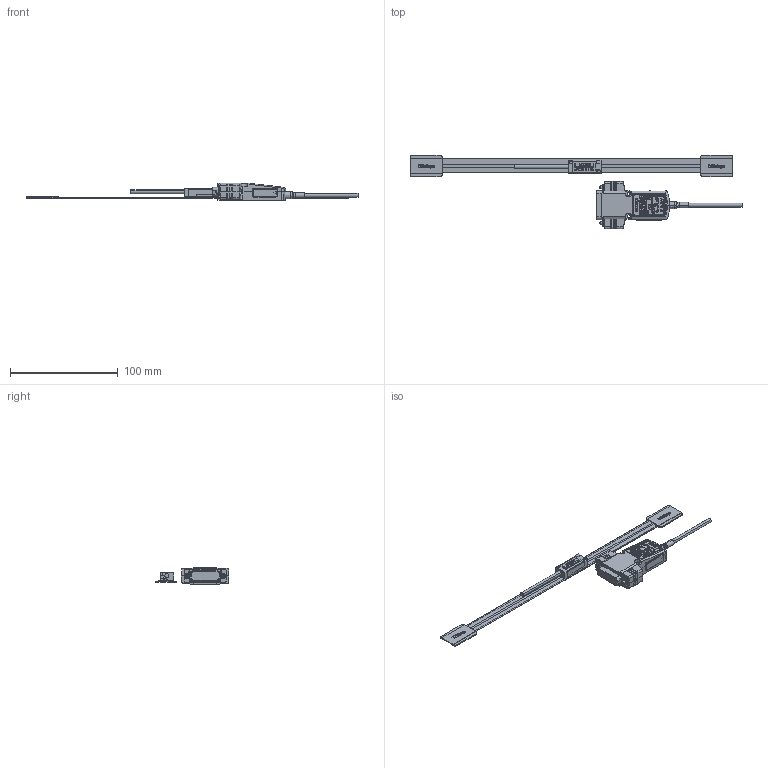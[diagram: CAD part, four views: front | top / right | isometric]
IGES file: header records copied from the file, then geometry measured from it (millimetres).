
Start section: Elysium IGES Interface
Global section: file name: 78H\\Utsu119s\kiyo_cad\data\3D\ST46EZA\HP掲載用_201803\ST46EZA-E\ST46EZA-200E.igs; native system: Creo Elements/Direct Modeling 18.1B  29-Sep-2012; preprocessor: Creo Element/Direct IGES_3D V2.2; author: Unknown; organization: Unknown; date: 20180316.151558; units: millimetre
Bounding box: 308.5 x 68.36 x 16.3 mm (x, y, z)
Volume: 5869.3 mm3; surface area: 22875.7 mm2
Topology: 3 solids, 5 shells, 2293 faces, 6209 edges, 4101 vertices
Faces by surface type: bspline 2293
